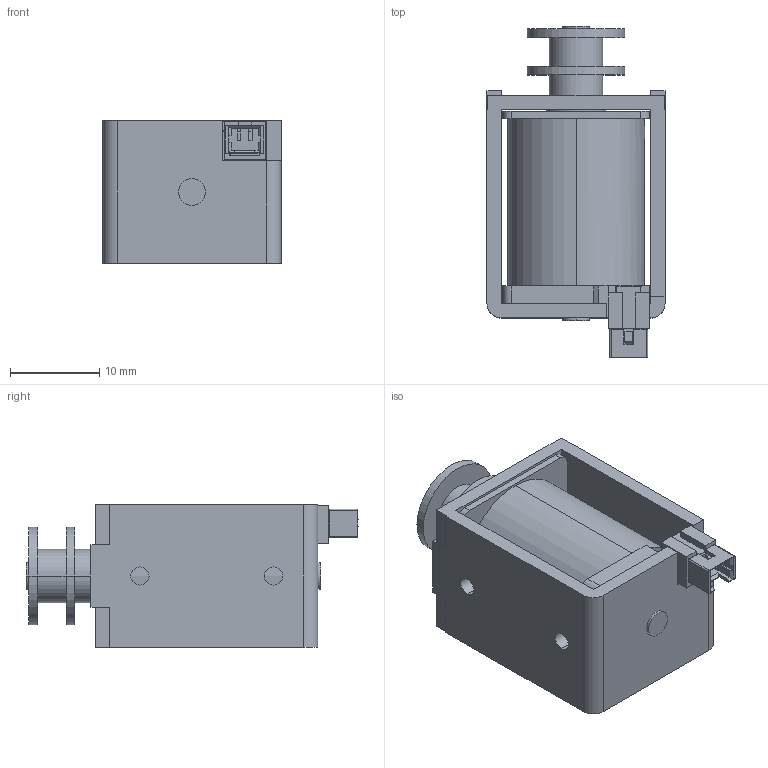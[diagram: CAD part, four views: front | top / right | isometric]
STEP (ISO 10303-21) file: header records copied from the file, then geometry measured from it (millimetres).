
FILE_DESCRIPTION (( 'STEP AP203' ), '1' );
FILE_NAME ('w_cfc0625.STEP', '2014-07-28T05:28:44', ( 'jiba' ), ( 'Hewlett-Packard Company' ), 'SwSTEP 2.0', 'SolidWorks 2014', '' );
FILE_SCHEMA (( 'CONFIG_CONTROL_DESIGN' ));
Length unit declared in the file: millimetre
Products named in the file (3): Part4^w_cfc0625; Part1^w_cfc0625_pl; w_cfc0625
Assembly tree (2 placements, depth 2):
  w_cfc0625
    Part4^w_cfc0625
    Part1^w_cfc0625_pl
Bounding box: 20 x 37.3 x 16 mm (x, y, z)
Volume: 6665.9 mm3; surface area: 5628.2 mm2
Topology: 2 solids, 2 shells, 246 faces, 677 edges, 429 vertices
Faces by surface type: plane 182, cylinder 58, bspline 6
Entity records: 8106 total; most frequent: CARTESIAN_POINT 1453, ORIENTED_EDGE 1354, DIRECTION 1279, EDGE_CURVE 677, VECTOR 561, LINE 561, VERTEX_POINT 429, AXIS2_PLACEMENT_3D 359
